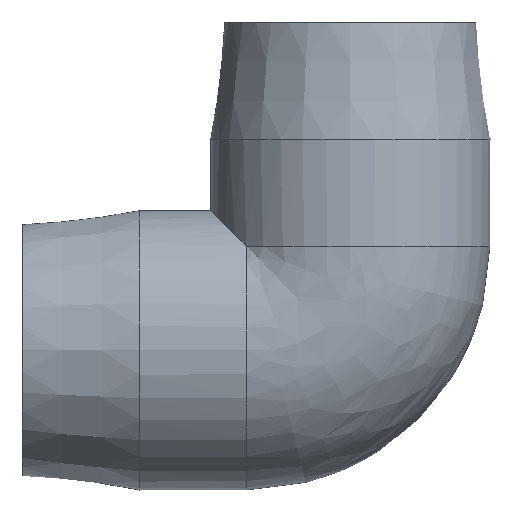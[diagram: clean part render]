
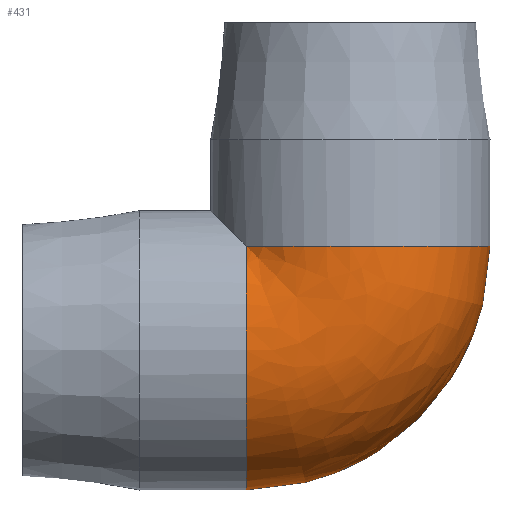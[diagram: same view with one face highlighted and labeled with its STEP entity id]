
A CAD part, front view. The second image highlights one B-rep face of the part: STEP entity #431.
In plain terms, the highlighted free-form (B-spline) face has degree [2, 2] with [9, 3] control points.
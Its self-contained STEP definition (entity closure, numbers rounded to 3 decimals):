
#33=(
BOUNDED_SURFACE()
B_SPLINE_SURFACE(2,2,((#724,#725,#726),(#727,#728,#729),(#730,#731,#732),
(#733,#734,#735),(#736,#737,#738),(#739,#740,#741),(#742,#743,#744),(#745,
#746,#747),(#748,#749,#750)),.UNSPECIFIED.,.F.,.F.,.F.)
B_SPLINE_SURFACE_WITH_KNOTS((3,2,2,2,3),(3,3),(-2.412,-1.206,
0.,1.206,2.412),(0.,1.571),
 .UNSPECIFIED.)
GEOMETRIC_REPRESENTATION_ITEM()
RATIONAL_B_SPLINE_SURFACE(((1.,0.707,1.),(0.824,
0.582,0.824),(1.,0.707,1.),(0.824,
0.582,0.824),(1.,0.707,1.),(0.824,
0.582,0.824),(1.,0.707,1.),(0.824,
0.582,0.824),(1.,0.707,1.)))
REPRESENTATION_ITEM('')
SURFACE()
);
#92=FACE_OUTER_BOUND('',#126,.T.);
#126=EDGE_LOOP('',(#307,#308,#309,#310));
#168=CIRCLE('',#494,27.5);
#169=CIRCLE('',#495,27.5);
#170=CIRCLE('',#496,27.5);
#171=CIRCLE('',#497,27.5);
#203=VERTEX_POINT('',#751);
#204=VERTEX_POINT('',#752);
#205=VERTEX_POINT('',#754);
#206=VERTEX_POINT('',#756);
#243=EDGE_CURVE('',#203,#204,#168,.T.);
#244=EDGE_CURVE('',#204,#205,#169,.T.);
#245=EDGE_CURVE('',#205,#206,#170,.T.);
#246=EDGE_CURVE('',#206,#203,#171,.T.);
#307=ORIENTED_EDGE('',*,*,#243,.T.);
#308=ORIENTED_EDGE('',*,*,#244,.T.);
#309=ORIENTED_EDGE('',*,*,#245,.T.);
#310=ORIENTED_EDGE('',*,*,#246,.T.);
#431=ADVANCED_FACE('',(#92),#33,.F.);
#494=AXIS2_PLACEMENT_3D('',#753,#579,#580);
#495=AXIS2_PLACEMENT_3D('',#755,#581,#582);
#496=AXIS2_PLACEMENT_3D('',#757,#583,#584);
#497=AXIS2_PLACEMENT_3D('',#758,#585,#586);
#579=DIRECTION('center_axis',(0.,0.,
-1.));
#580=DIRECTION('ref_axis',(-1.,0.,0.));
#581=DIRECTION('center_axis',(0.,0.,
-1.));
#582=DIRECTION('ref_axis',(-1.,0.,0.));
#583=DIRECTION('center_axis',(1.,0.,0.));
#584=DIRECTION('ref_axis',(0.,0.,-1.));
#585=DIRECTION('center_axis',(1.,0.,0.));
#586=DIRECTION('ref_axis',(0.,0.,-1.));
#724=CARTESIAN_POINT('Ctrl Pts',(-20.5,18.33,20.5));
#725=CARTESIAN_POINT('Ctrl Pts',(-20.5,18.33,20.5));
#726=CARTESIAN_POINT('Ctrl Pts',(-20.5,18.33,20.5));
#727=CARTESIAN_POINT('Ctrl Pts',(-20.5,32.446,7.879));
#728=CARTESIAN_POINT('Ctrl Pts',(-7.879,32.446,7.879));
#729=CARTESIAN_POINT('Ctrl Pts',(-7.879,32.446,20.5));
#730=CARTESIAN_POINT('Ctrl Pts',(-20.5,25.69,-9.811));
#731=CARTESIAN_POINT('Ctrl Pts',(9.811,25.69,-9.811));
#732=CARTESIAN_POINT('Ctrl Pts',(9.811,25.69,20.5));
#733=CARTESIAN_POINT('Ctrl Pts',(-20.5,18.935,-27.5));
#734=CARTESIAN_POINT('Ctrl Pts',(27.5,18.935,-27.5));
#735=CARTESIAN_POINT('Ctrl Pts',(27.5,18.935,20.5));
#736=CARTESIAN_POINT('Ctrl Pts',(-20.5,0.,-27.5));
#737=CARTESIAN_POINT('Ctrl Pts',(27.5,0.,-27.5));
#738=CARTESIAN_POINT('Ctrl Pts',(27.5,0.,20.5));
#739=CARTESIAN_POINT('Ctrl Pts',(-20.5,-18.935,-27.5));
#740=CARTESIAN_POINT('Ctrl Pts',(27.5,-18.935,-27.5));
#741=CARTESIAN_POINT('Ctrl Pts',(27.5,-18.935,20.5));
#742=CARTESIAN_POINT('Ctrl Pts',(-20.5,-25.69,-9.811));
#743=CARTESIAN_POINT('Ctrl Pts',(9.811,-25.69,-9.811));
#744=CARTESIAN_POINT('Ctrl Pts',(9.811,-25.69,20.5));
#745=CARTESIAN_POINT('Ctrl Pts',(-20.5,-32.446,7.879));
#746=CARTESIAN_POINT('Ctrl Pts',(-7.879,-32.446,7.879));
#747=CARTESIAN_POINT('Ctrl Pts',(-7.879,-32.446,20.5));
#748=CARTESIAN_POINT('Ctrl Pts',(-20.5,-18.33,20.5));
#749=CARTESIAN_POINT('Ctrl Pts',(-20.5,-18.33,20.5));
#750=CARTESIAN_POINT('Ctrl Pts',(-20.5,-18.33,20.5));
#751=CARTESIAN_POINT('',(-20.5,18.33,20.5));
#752=CARTESIAN_POINT('',(0.,-27.5,20.5));
#753=CARTESIAN_POINT('Origin',(0.,0.,
20.5));
#754=CARTESIAN_POINT('',(-20.5,-18.33,20.5));
#755=CARTESIAN_POINT('Origin',(0.,0.,
20.5));
#756=CARTESIAN_POINT('',(-20.5,-27.5,0.));
#757=CARTESIAN_POINT('Origin',(-20.5,0.,0.));
#758=CARTESIAN_POINT('Origin',(-20.5,0.,0.));
